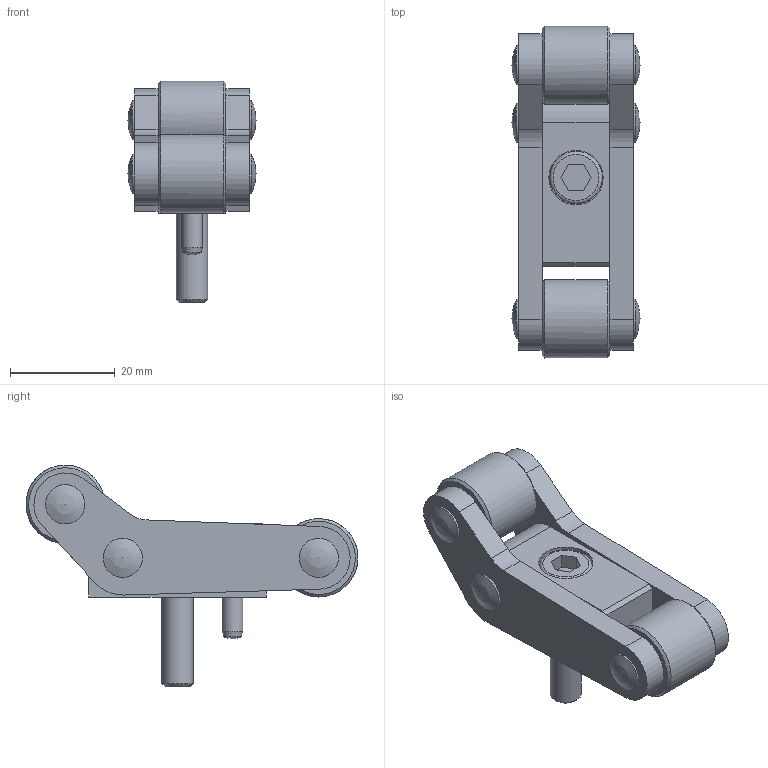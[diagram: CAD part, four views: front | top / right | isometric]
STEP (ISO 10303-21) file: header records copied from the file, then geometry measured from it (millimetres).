
FILE_DESCRIPTION(/* description */ ('STEP AP214'),/* implementation_level */ '2;1');
FILE_NAME(/* name */ 'F152422',/* time_stamp */ '2024-06-21T15:14:21+02:00',/* author */ ('License CC BY-ND 4.0'),/* organization */ ('CADENAS'),/* preprocessor_version */ 'ST-DEVELOPER v19.3',/* originating_system */ 'PARTsolutions',/* authorisation */ ' ');
FILE_SCHEMA (('AUTOMOTIVE_DESIGN {1 0 10303 214 3 1 1}'));
Length unit declared in the file: millimetre
Products named in the file (1): F152422
Bounding box: 24.52 x 63.51 x 42.44 mm (x, y, z)
Volume: 18494.8 mm3; surface area: 8541.9 mm2
Topology: 1 solids, 2 shells, 75 faces, 191 edges, 123 vertices
Faces by surface type: plane 34, cylinder 25, sphere 8, cone 6, torus 2
Full cylindrical faces by diameter (mm): 4 x2, 6 x1, 6.4 x1, 7.5 x6, 8 x2, 10 x1, 10.4 x1, 15 x2
Entity records: 1922 total; most frequent: DIRECTION 348, CARTESIAN_POINT 310, ORIENTED_EDGE 270, AXIS2_PLACEMENT_3D 137, EDGE_CURVE 135, EDGE_LOOP 114, FACE_BOUND 114, VERTEX_POINT 99
